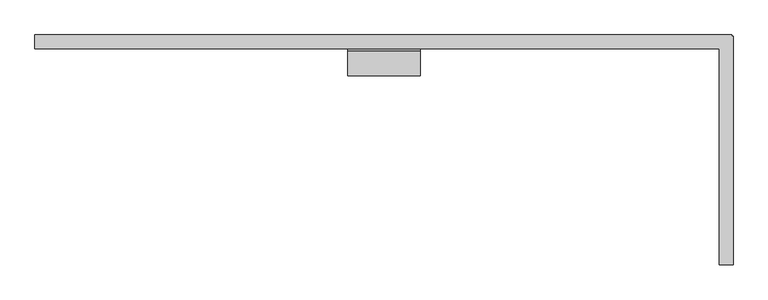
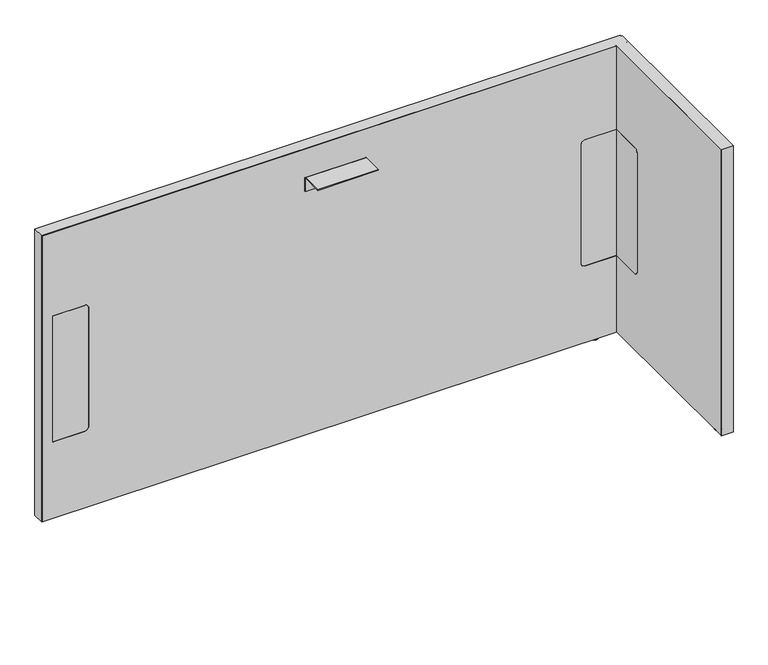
"""IFC4 building model written with IfcOpenShell, lengths in millimetres: furniture geometry, Steelcase - Answer Solution - Boundary Screen - L Return - Single Sided : 30H x 57W."""

from ifc_helpers import new_model, si_unit, point, frame, frame_2d, origin, place, context, project, spatial, polyline, circle_curve, ellipse_curve, trimmed, segment, composite_curve, outline, extrude, faceted_brep, source, transform, mapped, element, save
from ifc_brep_helpers import plane_surface, cylinder_surface, revolved_surface, advanced_brep


def furniture_31f9cdb4(model_context):
    return source(origin(), model_context, "Body", "SolidModel", [
        extrude(outline(composite_curve([segment(polyline([(-109.3501471, 549.6162029), (-29.0550397, 549.6162029), (-29.0550397, 213.7762137), (-109.3501471, 213.7762137)]), True, "CONTINUOUS"), segment(trimmed(circle_curve(frame_2d((-109.3501471, 223.9362137)), 10.16), [point((-109.3501471, 213.7762137))], [point((-119.5101471, 223.9362137))], False, "CARTESIAN"), True, "CONTINUOUS"), segment(polyline([(-119.5101471, 223.9362137), (-119.5101471, 539.4562029)]), True, "CONTINUOUS"), segment(trimmed(circle_curve(frame_2d((-109.3501471, 539.4562029)), 10.16), [point((-119.5101471, 539.4562029))], [point((-109.3501471, 549.6162029))], False, "CARTESIAN"), True, "CONTINUOUS")], self_intersect=False)), frame((1677.6191891, 0.0, 0.0), z_axis=(1.0, 0.0, 0.0), x_axis=(0.0, 1.0, 0.0)), (0.0, 0.0, 1.0), 0.6401544),
        advanced_brep(
        [(1692.4672074, -448.0136072, 0.0), (1699.4216144, -448.0136072, 0.0), (1685.5128003, -448.0136072, 0.0), (1700.8762685, -448.0136072, 1.2700001), (1684.0581463, -448.0136072, 1.2700001), (1700.8762685, -448.0136072, 2.9673238), (1684.0581463, -448.0136072, 2.9673238), (1701.8427877, -448.0136072, 2.9673238), (1683.091627, -448.0136072, 2.9673238), (1701.8427877, -448.0136072, 9.9059849), (1683.091627, -448.0136072, 9.9059849), (1692.4672074, -448.0136072, 9.9059849)],
        [
            (0, 1),
            (1, 2, circle_curve(frame((1692.4672074, -448.0136072, 0.0), z_axis=(0.0, 0.0, -1.0), x_axis=(1.0, 0.0, 0.0)), 6.9544071)),
            (2, 0),
            (2, 1, circle_curve(frame((1692.4672074, -448.0136072, 0.0), z_axis=(0.0, 0.0, -1.0), x_axis=(1.0, 0.0, 0.0)), 6.9544071)),
            (1, 3, circle_curve(frame((1699.5945484, -448.0136072, 1.2700001), z_axis=(0.0, -1.0, 0.0), x_axis=(0.0, 0.0, 1.0)), 1.2817201)),
            (3, 4, circle_curve(frame((1692.4672074, -448.0136072, 1.2700001), z_axis=(0.0, 0.0, -1.0), x_axis=(1.0, 0.0, 0.0)), 8.4090611)),
            (4, 2, circle_curve(frame((1685.3398663, -448.0136072, 1.2700001), z_axis=(0.0, -1.0, 0.0), x_axis=(0.0, 0.0, 1.0)), 1.2817201)),
            (4, 3, circle_curve(frame((1692.4672074, -448.0136072, 1.2700001), z_axis=(0.0, 0.0, -1.0), x_axis=(1.0, 0.0, 0.0)), 8.4090611)),
            (3, 5),
            (5, 6, circle_curve(frame((1692.4672074, -448.0136072, 2.9673238), z_axis=(0.0, 0.0, -1.0), x_axis=(1.0, 0.0, 0.0)), 8.4090611)),
            (6, 4),
            (6, 5, circle_curve(frame((1692.4672074, -448.0136072, 2.9673238), z_axis=(0.0, 0.0, -1.0), x_axis=(1.0, 0.0, 0.0)), 8.4090611)),
            (5, 7),
            (7, 8, circle_curve(frame((1692.4672074, -448.0136072, 2.9673238), z_axis=(0.0, 0.0, -1.0), x_axis=(1.0, 0.0, 0.0)), 9.3755804)),
            (8, 6),
            (8, 7, circle_curve(frame((1692.4672074, -448.0136072, 2.9673238), z_axis=(0.0, 0.0, -1.0), x_axis=(1.0, 0.0, 0.0)), 9.3755804)),
            (7, 9),
            (9, 10, circle_curve(frame((1692.4672074, -448.0136072, 9.9059849), z_axis=(0.0, 0.0, -1.0), x_axis=(1.0, 0.0, 0.0)), 9.3755804)),
            (10, 8),
            (10, 9, circle_curve(frame((1692.4672074, -448.0136072, 9.9059849), z_axis=(0.0, 0.0, -1.0), x_axis=(1.0, 0.0, 0.0)), 9.3755804)),
            (9, 11),
            (11, 10),
        ],
        [
            plane_surface(frame((1692.4672074, -448.0136072, 0.0), z_axis=(0.0, 0.0, -1.0), x_axis=(1.0, 0.0, 0.0))),
            revolved_surface(trimmed(ellipse_curve(frame((1699.5945484, -448.0136072, 1.2700001), z_axis=(0.0, 1.0, 0.0), x_axis=(0.0, 0.0, 1.0)), 1.2817201, 1.2817201), [point((1700.8762685, -448.0136072, 1.2700001))], [point((1699.4216144, -448.0136072, 0.0))], True, "CARTESIAN"), (1692.4672074, -448.0136072, 9.9059849), (0.0, 0.0, -1.0)),
            cylinder_surface(frame((1692.4672074, -448.0136072, 9.9059849), z_axis=(0.0, 0.0, -1.0), x_axis=(1.0, 0.0, 0.0)), 8.4090611),
            plane_surface(frame((1692.4672074, -448.0136072, 2.9673238), z_axis=(0.0, 0.0, -1.0), x_axis=(1.0, 0.0, 0.0))),
            cylinder_surface(frame((1692.4672074, -448.0136072, 9.9059849), z_axis=(0.0, 0.0, -1.0), x_axis=(1.0, 0.0, 0.0)), 9.3755804),
            plane_surface(frame((1692.4672074, -448.0136072, 9.9059849), z_axis=(0.0, 0.0, 1.0), x_axis=(1.0, 0.0, 0.0))),
        ],
        [
            (0, [[1, 2, 3]]),
            (0, [[-3, 4, -1]]),
            (1, [[-2, 5, 6, 7]]),
            (1, [[-4, -7, 8, -5]]),
            (2, [[-6, 9, 10, 11]]),
            (2, [[-8, -11, 12, -9]]),
            (3, [[-10, 13, 14, 15]]),
            (3, [[-12, -15, 16, -13]]),
            (4, [[-14, 17, 18, 19]]),
            (4, [[-16, -19, 20, -17]]),
            (5, [[-18, 21, 22]]),
            (5, [[-20, -22, -21]]),
        ],
    ),
        faceted_brep([(1704.0531179, 0.0, 772.922), (1704.0531179, 0.0, 9.9059849), (1703.0621491, 0.0, 9.9059849), (1703.0621491, 0.0, 771.942118), (230.8097779, 0.0, 771.942118), (230.8097779, 0.0, 9.9059849), (229.8191891, 0.0, 9.9059849), (229.8191891, 0.0, 772.922), (229.8191891, -29.6898332, 772.922), (229.8191891, -29.6898332, 9.9059849), (230.8097779, -29.6898332, 9.9059849), (230.8097779, -29.6898332, 771.942118), (1677.6191891, -29.6898332, 771.942118), (1677.6191891, -29.6898332, 772.922), (1703.0621491, -29.6898332, 771.942118), (1703.0621491, -29.6898332, 9.9059849), (1704.0531179, -29.6898332, 9.9059849), (1704.0531179, -29.6898332, 771.942118), (1704.0531179, -3.2625916, 772.922), (1704.0531179, -3.2625916, 9.9059849), (1704.0531179, -4.252647, 9.9059849), (1704.0531179, -4.252647, 771.942118), (1707.3152256, -3.2625916, 9.9059849), (1707.3152256, -4.252647, 9.9059849), (1703.0621491, -4.252647, 9.9059849), (1677.6191891, -4.252647, 9.9059849), (1677.6191891, -3.2625916, 9.9059849), (1703.0621491, -3.2625916, 9.9059849), (1677.6191891, -486.8898332, 772.922), (1707.3152256, -486.8898332, 772.922), (1707.3152256, -3.2625916, 772.922), (1703.0621491, -3.2625916, 771.942118), (1703.0621491, -4.252647, 771.942118), (1677.6191891, -3.2625916, 771.942118), (1677.6191891, -4.252647, 771.942118), (1707.3152256, -4.252647, 771.942118), (1707.3152256, -485.899196, 771.942118), (1677.6191891, -485.899196, 771.942118), (1677.6191891, -485.899196, 9.9059849), (1677.6191891, -486.8898332, 9.9059849), (1707.3152256, -486.8898332, 9.9059849), (1707.3152256, -485.899196, 9.9059849)], [[[0, 1, 2, 3, 4, 5, 6, 7]], [[8, 9, 10, 11, 12, 13]], [[14, 15, 16, 17]], [[1, 0, 18, 19]], [[17, 16, 20, 21]], [[2, 1, 19, 22, 23, 20, 16, 15, 24, 25, 26, 27]], [[7, 6, 9, 8]], [[0, 7, 8, 13, 28, 29, 30, 18]], [[3, 2, 27, 31]], [[15, 14, 32, 24]], [[4, 3, 31, 33, 34, 32, 14, 17, 21, 35, 36, 37, 12, 11]], [[5, 4, 11, 10]], [[6, 5, 10, 9]], [[26, 25, 34, 33]], [[37, 38, 39, 28, 13, 12]], [[29, 40, 41, 36, 35, 23, 22, 30]], [[27, 26, 33, 31]], [[30, 22, 19, 18]], [[34, 25, 24, 32]], [[23, 35, 21, 20]], [[38, 37, 36, 41]], [[39, 38, 41, 40]], [[28, 39, 40, 29]]]),
        extrude(outline(composite_curve([segment(polyline([(-86.8398151, 696.4680019), (-86.8398151, 698.5), (-34.9450855, 698.5)]), True, "CONTINUOUS"), segment(trimmed(circle_curve(frame_2d((-34.9450855, 693.2447477)), 5.2552523), [point((-34.9450855, 698.5))], [point((-29.6898332, 693.2447477))], False, "CARTESIAN"), True, "CONTINUOUS"), segment(polyline([(-29.6898332, 693.2447477), (-29.6898332, 660.4), (-31.7218162, 660.4), (-31.7218162, 693.0058743)]), True, "CONTINUOUS"), segment(trimmed(circle_curve(frame_2d((-35.1839438, 693.0058743)), 3.4621276), [point((-31.7218162, 693.0058743))], [point((-35.1839438, 696.4680019))], True, "CARTESIAN"), True, "CONTINUOUS"), segment(polyline([(-35.1839438, 696.4680019), (-86.8398151, 696.4680019)]), True, "CONTINUOUS")], self_intersect=False)), frame((892.3685899, 0.0, 0.0), z_axis=(1.0, 0.0, 0.0), x_axis=(0.0, 1.0, 0.0)), (0.0, 0.0, 1.0), 152.4000969),
        advanced_brep(
        [(1630.1246853, -23.7588726, 9.9059849), (1630.1246853, -5.9309607, 9.9059849), (1630.1246853, -14.8449166, 9.9059849), (1630.1246853, -23.7588726, 2.9673238), (1630.1246853, -5.9309607, 2.9673238), (1630.1246853, -22.7915354, 2.9673238), (1630.1246853, -6.8982978, 2.9673238), (1630.1246853, -22.7915354, 1.6569081), (1630.1246853, -6.8982978, 1.6569081), (1630.1246853, -21.1346274, 0.0), (1630.1246853, -8.5552059, 0.0), (1630.1246853, -14.8449166, 0.0)],
        [
            (0, 1, circle_curve(frame((1630.1246853, -14.8449166, 9.9059849), z_axis=(0.0, 0.0, 1.0), x_axis=(0.0, 1.0, 0.0)), 8.913956)),
            (1, 2),
            (2, 0),
            (1, 0, circle_curve(frame((1630.1246853, -14.8449166, 9.9059849), z_axis=(0.0, 0.0, 1.0), x_axis=(0.0, 1.0, 0.0)), 8.913956)),
            (3, 4, circle_curve(frame((1630.1246853, -14.8449166, 2.9673238), z_axis=(0.0, 0.0, 1.0), x_axis=(0.0, 1.0, 0.0)), 8.913956)),
            (4, 1),
            (0, 3),
            (4, 3, circle_curve(frame((1630.1246853, -14.8449166, 2.9673238), z_axis=(0.0, 0.0, 1.0), x_axis=(0.0, 1.0, 0.0)), 8.913956)),
            (5, 6, circle_curve(frame((1630.1246853, -14.8449166, 2.9673238), z_axis=(0.0, 0.0, 1.0), x_axis=(0.0, 1.0, 0.0)), 7.9466188)),
            (6, 4),
            (3, 5),
            (6, 5, circle_curve(frame((1630.1246853, -14.8449166, 2.9673238), z_axis=(0.0, 0.0, 1.0), x_axis=(0.0, 1.0, 0.0)), 7.9466188)),
            (7, 8, circle_curve(frame((1630.1246853, -14.8449166, 1.6569081), z_axis=(0.0, 0.0, 1.0), x_axis=(0.0, 1.0, 0.0)), 7.9466188)),
            (8, 6),
            (5, 7),
            (8, 7, circle_curve(frame((1630.1246853, -14.8449166, 1.6569081), z_axis=(0.0, 0.0, 1.0), x_axis=(0.0, 1.0, 0.0)), 7.9466188)),
            (9, 10, circle_curve(frame((1630.1246853, -14.8449166, 0.0), z_axis=(0.0, 0.0, 1.0), x_axis=(0.0, 1.0, 0.0)), 6.2897107)),
            (10, 8, circle_curve(frame((1630.1246853, -8.5552059, 1.6569081), z_axis=(1.0, 0.0, 0.0), x_axis=(0.0, 1.0, 0.0)), 1.6569081)),
            (7, 9, circle_curve(frame((1630.1246853, -21.1346274, 1.6569081), z_axis=(1.0, 0.0, 0.0), x_axis=(0.0, -1.0, 0.0)), 1.6569081)),
            (10, 9, circle_curve(frame((1630.1246853, -14.8449166, 0.0), z_axis=(0.0, 0.0, 1.0), x_axis=(0.0, 1.0, 0.0)), 6.2897107)),
            (11, 10),
            (9, 11),
        ],
        [
            plane_surface(frame((1630.1246853, -14.8449166, 9.9059849), z_axis=(0.0, 0.0, 1.0), x_axis=(0.0, 1.0, 0.0))),
            cylinder_surface(frame((1630.1246853, -14.8449166, 9.9059849), z_axis=(0.0, 0.0, -1.0), x_axis=(0.0, 1.0, 0.0)), 8.913956),
            plane_surface(frame((1630.1246853, -14.8449166, 2.9673238), z_axis=(0.0, 0.0, -1.0), x_axis=(0.0, 1.0, 0.0))),
            cylinder_surface(frame((1630.1246853, -14.8449166, 9.9059849), z_axis=(0.0, 0.0, -1.0), x_axis=(0.0, 1.0, 0.0)), 7.9466188),
            revolved_surface(trimmed(ellipse_curve(frame((1630.1246853, -8.5552059, 1.6569081), z_axis=(-1.0, 0.0, 0.0), x_axis=(0.0, 1.0, 0.0)), 1.6569081, 1.6569081), [point((1630.1246853, -6.8982978, 1.6569081))], [point((1630.1246853, -8.5552059, 0.0))], True, "CARTESIAN"), (1630.1246853, -14.8449166, 9.9059849), (0.0, 0.0, -1.0)),
            plane_surface(frame((1630.1246853, -14.8449166, 0.0), z_axis=(0.0, 0.0, -1.0), x_axis=(0.0, 1.0, 0.0))),
        ],
        [
            (0, [[1, 2, 3]]),
            (0, [[4, -3, -2]]),
            (1, [[5, 6, -1, 7]]),
            (1, [[8, -7, -4, -6]]),
            (2, [[9, 10, -5, 11]]),
            (2, [[12, -11, -8, -10]]),
            (3, [[13, 14, -9, 15]]),
            (3, [[16, -15, -12, -14]]),
            (4, [[17, 18, -13, 19]]),
            (4, [[20, -19, -16, -18]]),
            (5, [[21, -17, 22]]),
            (5, [[-22, -20, -21]]),
        ],
    ),
        advanced_brep(
        [(230.8097779, 0.0, 771.942118), (1703.0621491, 0.0, 771.942118), (1703.0621491, 0.0, 9.9059849), (230.8097779, 0.0, 9.9059849), (347.9483813, -29.0550397, 539.4562029), (337.7883813, -29.0550397, 549.6162029), (258.1344836, -29.0550397, 549.6162029), (258.1344836, -29.0550397, 213.7762137), (337.7883813, -29.0550397, 213.7762137), (347.9483813, -29.0550397, 223.9362137), (1678.2593435, -29.0550397, 213.7762137), (1678.2593435, -29.0550397, 549.6162029), (1597.7109268, -29.0550397, 549.6162029), (1587.5509268, -29.0550397, 539.4562029), (1587.5509268, -29.0550397, 223.9362137), (1597.7109268, -29.0550397, 213.7762137), (230.8097779, -29.6898332, 771.942118), (230.8097779, -29.6898332, 9.9059849), (1677.6191891, -29.6898332, 9.9059849), (1677.6191891, -29.6898332, 213.7762137), (1597.7109268, -29.6898332, 213.7762137), (1587.5509268, -29.6898332, 223.9362137), (1587.5509268, -29.6898332, 539.4562029), (1597.7109268, -29.6898332, 549.6162029), (1677.6191891, -29.6898332, 549.6162029), (1677.6191891, -29.6898332, 771.942118), (337.7883813, -29.6898332, 549.6162029), (347.9483813, -29.6898332, 539.4562029), (347.9483813, -29.6898332, 223.9362137), (337.7883813, -29.6898332, 213.7762137), (258.1344836, -29.6898332, 213.7762137), (258.1344836, -29.6898332, 549.6162029), (1703.0621491, -4.252647, 9.9059849), (1707.3152256, -4.252647, 9.9059849), (1707.3152256, -485.899196, 9.9059849), (1677.6191891, -485.899196, 9.9059849), (1703.0621491, -4.252647, 771.942118), (1677.6191891, -485.899196, 771.942118), (1707.3152256, -485.899196, 771.942118), (1707.3152256, -4.252647, 771.942118), (1678.2593435, -109.3501471, 549.6162029), (1677.6191891, -109.3501471, 549.6162029), (1678.2593435, -109.3501471, 213.7762137), (1678.2593435, -119.5101471, 223.9362137), (1678.2593435, -119.5101471, 539.4562029), (1677.6191891, -109.3501471, 213.7762137), (1677.6191891, -119.5101471, 539.4562029), (1677.6191891, -119.5101471, 223.9362137)],
        [
            (0, 1),
            (1, 2),
            (2, 3),
            (3, 0),
            (4, 5, circle_curve(frame((337.7883813, -29.0550397, 539.4562029), z_axis=(0.0, -1.0, 0.0), x_axis=(0.0, 0.0, 1.0)), 10.16)),
            (5, 6),
            (6, 7),
            (7, 8),
            (8, 9, circle_curve(frame((337.7883813, -29.0550397, 223.9362137), z_axis=(0.0, -1.0, 0.0), x_axis=(0.0, 0.0, 1.0)), 10.16)),
            (9, 4),
            (10, 11),
            (11, 12),
            (12, 13, circle_curve(frame((1597.7109268, -29.0550397, 539.4562029), z_axis=(0.0, -1.0, 0.0), x_axis=(0.0, 0.0, 1.0)), 10.16)),
            (13, 14),
            (14, 15, circle_curve(frame((1597.7109268, -29.0550397, 223.9362137), z_axis=(0.0, -1.0, 0.0), x_axis=(0.0, 0.0, 1.0)), 10.16)),
            (15, 10),
            (16, 17),
            (17, 18),
            (18, 19),
            (19, 20),
            (20, 21, circle_curve(frame((1597.7109268, -29.6898332, 223.9362137), z_axis=(0.0, 1.0, 0.0), x_axis=(0.0, 0.0, 1.0)), 10.16)),
            (21, 22),
            (22, 23, circle_curve(frame((1597.7109268, -29.6898332, 539.4562029), z_axis=(0.0, 1.0, 0.0), x_axis=(0.0, 0.0, 1.0)), 10.16)),
            (23, 24),
            (24, 25),
            (25, 16),
            (26, 27, circle_curve(frame((337.7883813, -29.6898332, 539.4562029), z_axis=(0.0, 1.0, 0.0), x_axis=(0.0, 0.0, 1.0)), 10.16)),
            (27, 28),
            (28, 29, circle_curve(frame((337.7883813, -29.6898332, 223.9362137), z_axis=(0.0, 1.0, 0.0), x_axis=(0.0, 0.0, 1.0)), 10.16)),
            (29, 30),
            (30, 31),
            (31, 26),
            (16, 0),
            (3, 17),
            (2, 32),
            (32, 33),
            (33, 34),
            (34, 35),
            (35, 18),
            (1, 36),
            (36, 32),
            (25, 37),
            (37, 38),
            (38, 39),
            (39, 36),
            (26, 5),
            (4, 27),
            (9, 28),
            (8, 29),
            (7, 30),
            (6, 31),
            (11, 40),
            (40, 41),
            (41, 24),
            (23, 12),
            (42, 43, circle_curve(frame((1678.2593435, -109.3501471, 223.9362137), z_axis=(-1.0, 0.0, 0.0), x_axis=(0.0, 1.0, 0.0)), 10.16)),
            (43, 44),
            (44, 40, circle_curve(frame((1678.2593435, -109.3501471, 539.4562029), z_axis=(-1.0, 0.0, 0.0), x_axis=(0.0, 1.0, 0.0)), 10.16)),
            (10, 42),
            (15, 20),
            (19, 45),
            (45, 42),
            (14, 21),
            (13, 22),
            (35, 37),
            (41, 46, circle_curve(frame((1677.6191891, -109.3501471, 539.4562029), z_axis=(1.0, 0.0, 0.0), x_axis=(0.0, 1.0, 0.0)), 10.16)),
            (46, 47),
            (47, 45, circle_curve(frame((1677.6191891, -109.3501471, 223.9362137), z_axis=(1.0, 0.0, 0.0), x_axis=(0.0, 1.0, 0.0)), 10.16)),
            (38, 34),
            (33, 39),
            (44, 46),
            (43, 47),
        ],
        [
            plane_surface(frame((347.9483813, 0.0, 549.6162029), z_axis=(0.0, 1.0, 0.0), x_axis=(0.0, 0.0, -1.0))),
            plane_surface(frame((347.9483813, -29.0550397, 549.6162029), z_axis=(0.0, -1.0, 0.0), x_axis=(0.0, 0.0, 1.0))),
            plane_surface(frame((1703.0621491, -29.6898332, 771.942118), z_axis=(0.0, -1.0, 0.0), x_axis=(-1.0, 0.0, 0.0))),
            plane_surface(frame((230.8097779, 0.0, 9.9059849), z_axis=(-1.0, 0.0, 0.0), x_axis=(0.0, -1.0, 0.0))),
            plane_surface(frame((1703.0621491, 0.0, 9.9059849), z_axis=(0.0, 0.0, -1.0), x_axis=(0.0, -1.0, 0.0))),
            plane_surface(frame((1703.0621491, 0.0, 771.942118), z_axis=(1.0, 0.0, 0.0), x_axis=(0.0, -1.0, 0.0))),
            plane_surface(frame((230.8097779, 0.0, 771.942118), z_axis=(0.0, 0.0, 1.0), x_axis=(0.0, -1.0, 0.0))),
            revolved_surface(polyline([(337.7883813, -29.6898332, 549.6162029), (337.7883813, -29.0550397, 549.6162029)]), (337.7883813, -29.6898332, 539.4562029), (0.0, -1.0, 0.0)),
            plane_surface(frame((347.9483813, 0.0, 223.9362137), z_axis=(-1.0, 0.0, 0.0), x_axis=(0.0, -1.0, 0.0))),
            revolved_surface(polyline([(337.7883813, -29.6898332, 234.0962137), (337.7883813, -29.0550397, 234.0962137)]), (337.7883813, -29.6898332, 223.9362137), (0.0, -1.0, 0.0)),
            plane_surface(frame((258.1344836, 0.0, 213.7762137), z_axis=(0.0, 0.0, 1.0), x_axis=(0.0, -1.0, 0.0))),
            plane_surface(frame((258.1344836, 0.0, 549.6162029), z_axis=(1.0, 0.0, 0.0), x_axis=(0.0, -1.0, 0.0))),
            plane_surface(frame((337.7883813, 0.0, 549.6162029), z_axis=(0.0, 0.0, -1.0), x_axis=(0.0, -1.0, 0.0))),
            plane_surface(frame((1678.2593435, 0.0, 549.6162029), z_axis=(0.0, 0.0, -1.0), x_axis=(0.0, -1.0, 0.0))),
            plane_surface(frame((1678.2593435, 0.0, 213.7762137), z_axis=(-1.0, 0.0, 0.0), x_axis=(0.0, -1.0, 0.0))),
            plane_surface(frame((1597.7109268, 0.0, 213.7762137), z_axis=(0.0, 0.0, 1.0), x_axis=(0.0, -1.0, 0.0))),
            revolved_surface(polyline([(1597.7109268, -29.6898332, 234.0962137), (1597.7109268, -29.0550397, 234.0962137)]), (1597.7109268, -29.6898332, 223.9362137), (0.0, -1.0, 0.0)),
            plane_surface(frame((1587.5509268, 0.0, 539.4562029), z_axis=(1.0, 0.0, 0.0), x_axis=(0.0, -1.0, 0.0))),
            revolved_surface(polyline([(1597.7109268, -29.6898332, 549.6162029), (1597.7109268, -29.0550397, 549.6162029)]), (1597.7109268, -29.6898332, 539.4562029), (0.0, -1.0, 0.0)),
            plane_surface(frame((1677.6191891, -485.899196, 771.942118), z_axis=(-1.0, 0.0, 0.0), x_axis=(0.0, 0.0, 1.0))),
            plane_surface(frame((1707.3152256, -485.899196, 771.942118), z_axis=(1.0, 0.0, 0.0), x_axis=(0.0, 0.0, -1.0))),
            plane_surface(frame((1707.3152256, -4.252647, 9.9059849), z_axis=(0.0, 1.0, 0.0), x_axis=(-1.0, 0.0, 0.0))),
            plane_surface(frame((1707.3152256, -485.899196, 771.942118), z_axis=(0.0, -1.0, 0.0), x_axis=(-1.0, 0.0, 0.0))),
            revolved_surface(polyline([(1677.6191891, -99.1901471, 539.4562029), (1678.2593435, -99.1901471, 539.4562029)]), (-340.6902705, -109.3501471, 539.4562029), (-1.0, 0.0, 0.0)),
            plane_surface(frame((1707.3152256, -119.5101471, 223.9362137), z_axis=(0.0, 1.0, 0.0), x_axis=(-1.0, 0.0, 0.0))),
            revolved_surface(polyline([(1677.6191891, -99.1901471, 223.9362137), (1678.2593435, -99.1901471, 223.9362137)]), (-340.6902705, -109.3501471, 223.9362137), (-1.0, 0.0, 0.0)),
        ],
        [
            (0, [[1, 2, 3, 4]]),
            (1, [[5, 6, 7, 8, 9, 10]]),
            (1, [[11, 12, 13, 14, 15, 16]]),
            (2, [[17, 18, 19, 20, 21, 22, 23, 24, 25, 26], [27, 28, 29, 30, 31, 32]]),
            (3, [[-17, 33, -4, 34]]),
            (4, [[-3, 35, 36, 37, 38, 39, -18, -34]]),
            (5, [[-2, 40, 41, -35]]),
            (6, [[-1, -33, -26, 42, 43, 44, 45, -40]]),
            (7, [[-27, 46, -5, 47]]),
            (8, [[-28, -47, -10, 48]]),
            (9, [[-29, -48, -9, 49]]),
            (10, [[-30, -49, -8, 50]]),
            (11, [[-31, -50, -7, 51]]),
            (12, [[-32, -51, -6, -46]]),
            (13, [[52, 53, 54, -24, 55, -12]]),
            (14, [[56, 57, 58, -52, -11, 59]]),
            (15, [[-59, -16, 60, -20, 61, 62]]),
            (16, [[-21, -60, -15, 63]]),
            (17, [[-22, -63, -14, 64]]),
            (18, [[-23, -64, -13, -55]]),
            (19, [[65, -42, -25, -54, 66, 67, 68, -61, -19, -39]]),
            (20, [[69, -37, 70, -44]]),
            (21, [[-70, -36, -41, -45]]),
            (22, [[-65, -38, -69, -43]]),
            (23, [[-66, -53, -58, 71]]),
            (24, [[-67, -71, -57, 72]]),
            (25, [[-68, -72, -56, -62]]),
        ],
    ),
        extrude(outline(composite_curve([segment(polyline([(549.6162029, 337.7883813), (549.6162029, 258.1344836), (213.7762137, 258.1344836), (213.7762137, 337.7883813)]), True, "CONTINUOUS"), segment(trimmed(circle_curve(frame_2d((223.9362137, 337.7883813)), 10.16), [point((213.7762137, 337.7883813))], [point((223.9362137, 347.9483813))], False, "CARTESIAN"), True, "CONTINUOUS"), segment(polyline([(223.9362137, 347.9483813), (539.4562029, 347.9483813)]), True, "CONTINUOUS"), segment(trimmed(circle_curve(frame_2d((539.4562029, 337.7883813)), 10.16), [point((539.4562029, 347.9483813))], [point((549.6162029, 337.7883813))], False, "CARTESIAN"), True, "CONTINUOUS")], self_intersect=False)), frame((0.0, -29.6898332, 0.0), z_axis=(0.0, 1.0, 0.0), x_axis=(0.0, 0.0, 1.0)), (0.0, 0.0, 1.0), 0.6347935),
        extrude(outline(composite_curve([segment(trimmed(circle_curve(frame_2d((539.4562029, 1597.7109268)), 10.16), [point((549.6162029, 1597.7109268))], [point((539.4562029, 1587.5509268))], False, "CARTESIAN"), True, "CONTINUOUS"), segment(polyline([(539.4562029, 1587.5509268), (223.9362137, 1587.5509268)]), True, "CONTINUOUS"), segment(trimmed(circle_curve(frame_2d((223.9362137, 1597.7109268)), 10.16), [point((223.9362137, 1587.5509268))], [point((213.7762137, 1597.7109268))], False, "CARTESIAN"), True, "CONTINUOUS"), segment(polyline([(213.7762137, 1597.7109268), (213.7762137, 1677.6191891), (549.6162029, 1677.6191891), (549.6162029, 1597.7109268)]), True, "CONTINUOUS")], self_intersect=False)), frame((0.0, -29.6898332, 0.0), z_axis=(0.0, 1.0, 0.0), x_axis=(0.0, 0.0, 1.0)), (0.0, 0.0, 1.0), 0.6347935),
    ])


if __name__ == "__main__":
    model = new_model("IFC4")
    model_context = context("Model", 3, world=origin())
    ifc_project = project(units=[si_unit("LENGTHUNIT", "METRE", prefix="MILLI")], contexts=[model_context])
    site = spatial("IfcSite", under=ifc_project)
    building = spatial("IfcBuilding", under=site)
    placement = place(None, origin())
    furniture_shape = furniture_31f9cdb4(model_context)
    element("IfcFurniture", 1, ObjectType="Steelcase - Answer Solution - Boundary Screen - L Return - Single Sided : 30H x 57W", at=placement, inside=building, context=model_context, shape_type="MappedRepresentation", body=[
        mapped(furniture_shape, transform((0.0, 0.0, 0.0), x_axis=(1.0, 0.0, 0.0), y_axis=(0.0, 1.0, 0.0), z_axis=(0.0, 0.0, 1.0))),
    ])
    save(model, "model.ifc")
